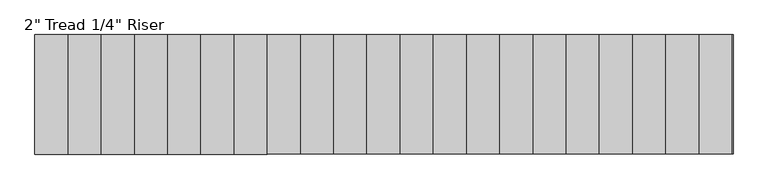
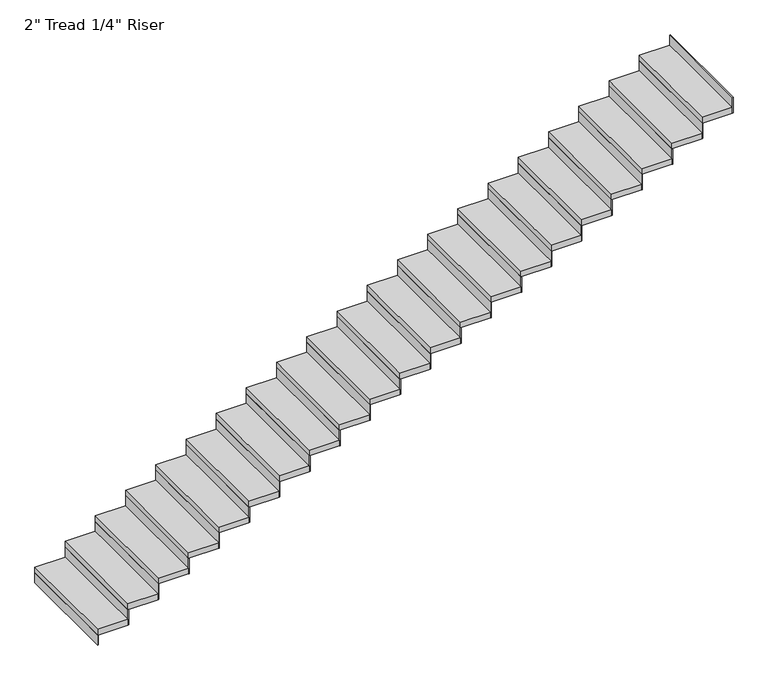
"""IFC4 building model written with IfcOpenShell, lengths in millimetres: stair flight geometry."""

from ifc_helpers import new_model, si_unit, frame, origin, origin_with_axes, place, context, project, spatial, polyline, outline, extrude, source, transform, mapped, element, save


def stair_flight_d66cefcb(model_context):
    return source(origin(), model_context, "Body", "SweptSolid", [
        extrude(outline(polyline([(35788.4072927, 15846.0395941), (35782.0572927, 15846.0395941), (35782.0572927, 16760.4395941), (35788.4072927, 16760.4395941), (35788.4072927, 15846.0395941)])), origin_with_axes(), (0.0, 0.0, 1.0), 87.7454545),
        extrude(outline(polyline([(36036.0572927, 16760.4395941), (36036.0572927, 15846.0395941), (35782.0572927, 15846.0395941), (35782.0572927, 16760.4395941), (36036.0572927, 16760.4395941)])), frame((0.0, 0.0, 87.7454545), z_axis=(0.0, 0.0, 1.0), x_axis=(1.0, 0.0, 0.0)), (0.0, 0.0, 1.0), 50.8),
        extrude(outline(polyline([(36042.4072927, 15846.0395941), (36036.0572927, 15846.0395941), (36036.0572927, 16760.4395941), (36042.4072927, 16760.4395941), (36042.4072927, 15846.0395941)])), frame((0.0, 0.0, 87.7454545), z_axis=(0.0, 0.0, 1.0), x_axis=(1.0, 0.0, 0.0)), (0.0, 0.0, 1.0), 138.5454545),
        extrude(outline(polyline([(36290.0572927, 16760.4395941), (36290.0572927, 15846.0395941), (36036.0572927, 15846.0395941), (36036.0572927, 16760.4395941), (36290.0572927, 16760.4395941)])), frame((0.0, 0.0, 226.2909091), z_axis=(0.0, 0.0, 1.0), x_axis=(1.0, 0.0, 0.0)), (0.0, 0.0, 1.0), 50.8),
        extrude(outline(polyline([(36296.4072927, 15846.0395941), (36290.0572927, 15846.0395941), (36290.0572927, 16760.4395941), (36296.4072927, 16760.4395941), (36296.4072927, 15846.0395941)])), frame((0.0, 0.0, 226.2909091), z_axis=(0.0, 0.0, 1.0), x_axis=(1.0, 0.0, 0.0)), (0.0, 0.0, 1.0), 138.5454545),
        extrude(outline(polyline([(36544.0572927, 16760.4395941), (36544.0572927, 15846.0395941), (36290.0572927, 15846.0395941), (36290.0572927, 16760.4395941), (36544.0572927, 16760.4395941)])), frame((0.0, 0.0, 364.8363636), z_axis=(0.0, 0.0, 1.0), x_axis=(1.0, 0.0, 0.0)), (0.0, 0.0, 1.0), 50.8),
        extrude(outline(polyline([(36550.4072927, 15846.0395941), (36544.0572927, 15846.0395941), (36544.0572927, 16760.4395941), (36550.4072927, 16760.4395941), (36550.4072927, 15846.0395941)])), frame((0.0, 0.0, 364.8363636), z_axis=(0.0, 0.0, 1.0), x_axis=(1.0, 0.0, 0.0)), (0.0, 0.0, 1.0), 138.5454545),
        extrude(outline(polyline([(36798.0572927, 16760.4395941), (36798.0572927, 15846.0395941), (36544.0572927, 15846.0395941), (36544.0572927, 16760.4395941), (36798.0572927, 16760.4395941)])), frame((0.0, 0.0, 503.3818182), z_axis=(0.0, 0.0, 1.0), x_axis=(1.0, 0.0, 0.0)), (0.0, 0.0, 1.0), 50.8),
        extrude(outline(polyline([(36804.4072927, 15846.0395941), (36798.0572927, 15846.0395941), (36798.0572927, 16760.4395941), (36804.4072927, 16760.4395941), (36804.4072927, 15846.0395941)])), frame((0.0, 0.0, 503.3818182), z_axis=(0.0, 0.0, 1.0), x_axis=(1.0, 0.0, 0.0)), (0.0, 0.0, 1.0), 138.5454545),
        extrude(outline(polyline([(37052.0572927, 16760.4395941), (37052.0572927, 15846.0395941), (36798.0572927, 15846.0395941), (36798.0572927, 16760.4395941), (37052.0572927, 16760.4395941)])), frame((0.0, 0.0, 641.9272727), z_axis=(0.0, 0.0, 1.0), x_axis=(1.0, 0.0, 0.0)), (0.0, 0.0, 1.0), 50.8),
        extrude(outline(polyline([(37058.4072927, 15846.0395941), (37052.0572927, 15846.0395941), (37052.0572927, 16760.4395941), (37058.4072927, 16760.4395941), (37058.4072927, 15846.0395941)])), frame((0.0, 0.0, 641.9272727), z_axis=(0.0, 0.0, 1.0), x_axis=(1.0, 0.0, 0.0)), (0.0, 0.0, 1.0), 138.5454545),
        extrude(outline(polyline([(37306.0572927, 16760.4395941), (37306.0572927, 15846.0395941), (37052.0572927, 15846.0395941), (37052.0572927, 16760.4395941), (37306.0572927, 16760.4395941)])), frame((0.0, 0.0, 780.4727273), z_axis=(0.0, 0.0, 1.0), x_axis=(1.0, 0.0, 0.0)), (0.0, 0.0, 1.0), 50.8),
        extrude(outline(polyline([(37312.4072927, 15846.0395941), (37306.0572927, 15846.0395941), (37306.0572927, 16760.4395941), (37312.4072927, 16760.4395941), (37312.4072927, 15846.0395941)])), frame((0.0, 0.0, 780.4727273), z_axis=(0.0, 0.0, 1.0), x_axis=(1.0, 0.0, 0.0)), (0.0, 0.0, 1.0), 138.5454545),
        extrude(outline(polyline([(37560.0572927, 16760.4395941), (37560.0572927, 15846.0395941), (37306.0572927, 15846.0395941), (37306.0572927, 16760.4395941), (37560.0572927, 16760.4395941)])), frame((0.0, 0.0, 919.0181818), z_axis=(0.0, 0.0, 1.0), x_axis=(1.0, 0.0, 0.0)), (0.0, 0.0, 1.0), 50.8),
        extrude(outline(polyline([(37566.4072927, 15846.0395941), (37560.0572927, 15846.0395941), (37560.0572927, 16760.4395941), (37566.4072927, 16760.4395941), (37566.4072927, 15846.0395941)])), frame((0.0, 0.0, 919.0181818), z_axis=(0.0, 0.0, 1.0), x_axis=(1.0, 0.0, 0.0)), (0.0, 0.0, 1.0), 138.5454545),
        extrude(outline(polyline([(37814.0572927, 16760.4395941), (37814.0572927, 15846.0395941), (37560.0572927, 15846.0395941), (37560.0572927, 16760.4395941), (37814.0572927, 16760.4395941)])), frame((0.0, 0.0, 1057.5636364), z_axis=(0.0, 0.0, 1.0), x_axis=(1.0, 0.0, 0.0)), (0.0, 0.0, 1.0), 50.8),
        extrude(outline(polyline([(37820.4072927, 15846.0395941), (37814.0572927, 15846.0395941), (37814.0572927, 16760.4395941), (37820.4072927, 16760.4395941), (37820.4072927, 15846.0395941)])), frame((0.0, 0.0, 1057.5636364), z_axis=(0.0, 0.0, 1.0), x_axis=(1.0, 0.0, 0.0)), (0.0, 0.0, 1.0), 138.5454545),
        extrude(outline(polyline([(38068.0572927, 16760.4395941), (38068.0572927, 15846.0395941), (37814.0572927, 15846.0395941), (37814.0572927, 16760.4395941), (38068.0572927, 16760.4395941)])), frame((0.0, 0.0, 1196.1090909), z_axis=(0.0, 0.0, 1.0), x_axis=(1.0, 0.0, 0.0)), (0.0, 0.0, 1.0), 50.8),
        extrude(outline(polyline([(38074.4072927, 15846.0395941), (38068.0572927, 15846.0395941), (38068.0572927, 16760.4395941), (38074.4072927, 16760.4395941), (38074.4072927, 15846.0395941)])), frame((0.0, 0.0, 1196.1090909), z_axis=(0.0, 0.0, 1.0), x_axis=(1.0, 0.0, 0.0)), (0.0, 0.0, 1.0), 138.5454545),
        extrude(outline(polyline([(38322.0572927, 16760.4395941), (38322.0572927, 15846.0395941), (38068.0572927, 15846.0395941), (38068.0572927, 16760.4395941), (38322.0572927, 16760.4395941)])), frame((0.0, 0.0, 1334.6545455), z_axis=(0.0, 0.0, 1.0), x_axis=(1.0, 0.0, 0.0)), (0.0, 0.0, 1.0), 50.8),
        extrude(outline(polyline([(38328.4072927, 15846.0395941), (38322.0572927, 15846.0395941), (38322.0572927, 16760.4395941), (38328.4072927, 16760.4395941), (38328.4072927, 15846.0395941)])), frame((0.0, 0.0, 1334.6545455), z_axis=(0.0, 0.0, 1.0), x_axis=(1.0, 0.0, 0.0)), (0.0, 0.0, 1.0), 138.5454545),
        extrude(outline(polyline([(38576.0572927, 16760.4395941), (38576.0572927, 15846.0395941), (38322.0572927, 15846.0395941), (38322.0572927, 16760.4395941), (38576.0572927, 16760.4395941)])), frame((0.0, 0.0, 1473.2), z_axis=(0.0, 0.0, 1.0), x_axis=(1.0, 0.0, 0.0)), (0.0, 0.0, 1.0), 50.8),
        extrude(outline(polyline([(38582.4072927, 15846.0395941), (38576.0572927, 15846.0395941), (38576.0572927, 16760.4395941), (38582.4072927, 16760.4395941), (38582.4072927, 15846.0395941)])), frame((0.0, 0.0, 1473.2), z_axis=(0.0, 0.0, 1.0), x_axis=(1.0, 0.0, 0.0)), (0.0, 0.0, 1.0), 138.5454545),
        extrude(outline(polyline([(38830.0572927, 16760.4395941), (38830.0572927, 15846.0395941), (38576.0572927, 15846.0395941), (38576.0572927, 16760.4395941), (38830.0572927, 16760.4395941)])), frame((0.0, 0.0, 1611.7454545), z_axis=(0.0, 0.0, 1.0), x_axis=(1.0, 0.0, 0.0)), (0.0, 0.0, 1.0), 50.8),
        extrude(outline(polyline([(38836.4072927, 15846.0395941), (38830.0572927, 15846.0395941), (38830.0572927, 16760.4395941), (38836.4072927, 16760.4395941), (38836.4072927, 15846.0395941)])), frame((0.0, 0.0, 1611.7454545), z_axis=(0.0, 0.0, 1.0), x_axis=(1.0, 0.0, 0.0)), (0.0, 0.0, 1.0), 138.5454545),
        extrude(outline(polyline([(39084.0572927, 16760.4395941), (39084.0572927, 15846.0395941), (38830.0572927, 15846.0395941), (38830.0572927, 16760.4395941), (39084.0572927, 16760.4395941)])), frame((0.0, 0.0, 1750.2909091), z_axis=(0.0, 0.0, 1.0), x_axis=(1.0, 0.0, 0.0)), (0.0, 0.0, 1.0), 50.8),
        extrude(outline(polyline([(39090.4072927, 15846.0395941), (39084.0572927, 15846.0395941), (39084.0572927, 16760.4395941), (39090.4072927, 16760.4395941), (39090.4072927, 15846.0395941)])), frame((0.0, 0.0, 1750.2909091), z_axis=(0.0, 0.0, 1.0), x_axis=(1.0, 0.0, 0.0)), (0.0, 0.0, 1.0), 138.5454545),
        extrude(outline(polyline([(39338.0572927, 16760.4395941), (39338.0572927, 15846.0395941), (39084.0572927, 15846.0395941), (39084.0572927, 16760.4395941), (39338.0572927, 16760.4395941)])), frame((0.0, 0.0, 1888.8363636), z_axis=(0.0, 0.0, 1.0), x_axis=(1.0, 0.0, 0.0)), (0.0, 0.0, 1.0), 50.8),
        extrude(outline(polyline([(39344.4072927, 15846.0395941), (39338.0572927, 15846.0395941), (39338.0572927, 16760.4395941), (39344.4072927, 16760.4395941), (39344.4072927, 15846.0395941)])), frame((0.0, 0.0, 1888.8363636), z_axis=(0.0, 0.0, 1.0), x_axis=(1.0, 0.0, 0.0)), (0.0, 0.0, 1.0), 138.5454545),
        extrude(outline(polyline([(39592.0572927, 16760.4395941), (39592.0572927, 15846.0395941), (39338.0572927, 15846.0395941), (39338.0572927, 16760.4395941), (39592.0572927, 16760.4395941)])), frame((0.0, 0.0, 2027.3818182), z_axis=(0.0, 0.0, 1.0), x_axis=(1.0, 0.0, 0.0)), (0.0, 0.0, 1.0), 50.8),
        extrude(outline(polyline([(39598.4072927, 15846.0395941), (39592.0572927, 15846.0395941), (39592.0572927, 16760.4395941), (39598.4072927, 16760.4395941), (39598.4072927, 15846.0395941)])), frame((0.0, 0.0, 2027.3818182), z_axis=(0.0, 0.0, 1.0), x_axis=(1.0, 0.0, 0.0)), (0.0, 0.0, 1.0), 138.5454545),
        extrude(outline(polyline([(39846.0572927, 16760.4395941), (39846.0572927, 15846.0395941), (39592.0572927, 15846.0395941), (39592.0572927, 16760.4395941), (39846.0572927, 16760.4395941)])), frame((0.0, 0.0, 2165.9272727), z_axis=(0.0, 0.0, 1.0), x_axis=(1.0, 0.0, 0.0)), (0.0, 0.0, 1.0), 50.8),
        extrude(outline(polyline([(39852.4072927, 15846.0395941), (39846.0572927, 15846.0395941), (39846.0572927, 16760.4395941), (39852.4072927, 16760.4395941), (39852.4072927, 15846.0395941)])), frame((0.0, 0.0, 2165.9272727), z_axis=(0.0, 0.0, 1.0), x_axis=(1.0, 0.0, 0.0)), (0.0, 0.0, 1.0), 138.5454545),
        extrude(outline(polyline([(40100.0572927, 16760.4395941), (40100.0572927, 15846.0395941), (39846.0572927, 15846.0395941), (39846.0572927, 16760.4395941), (40100.0572927, 16760.4395941)])), frame((0.0, 0.0, 2304.4727273), z_axis=(0.0, 0.0, 1.0), x_axis=(1.0, 0.0, 0.0)), (0.0, 0.0, 1.0), 50.8),
        extrude(outline(polyline([(40106.4072927, 15846.0395941), (40100.0572927, 15846.0395941), (40100.0572927, 16760.4395941), (40106.4072927, 16760.4395941), (40106.4072927, 15846.0395941)])), frame((0.0, 0.0, 2304.4727273), z_axis=(0.0, 0.0, 1.0), x_axis=(1.0, 0.0, 0.0)), (0.0, 0.0, 1.0), 138.5454545),
        extrude(outline(polyline([(40354.0572927, 16760.4395941), (40354.0572927, 15846.0395941), (40100.0572927, 15846.0395941), (40100.0572927, 16760.4395941), (40354.0572927, 16760.4395941)])), frame((0.0, 0.0, 2443.0181818), z_axis=(0.0, 0.0, 1.0), x_axis=(1.0, 0.0, 0.0)), (0.0, 0.0, 1.0), 50.8),
        extrude(outline(polyline([(40360.4072927, 15846.0395941), (40354.0572927, 15846.0395941), (40354.0572927, 16760.4395941), (40360.4072927, 16760.4395941), (40360.4072927, 15846.0395941)])), frame((0.0, 0.0, 2443.0181818), z_axis=(0.0, 0.0, 1.0), x_axis=(1.0, 0.0, 0.0)), (0.0, 0.0, 1.0), 138.5454545),
        extrude(outline(polyline([(40608.0572927, 16760.4395941), (40608.0572927, 15846.0395941), (40354.0572927, 15846.0395941), (40354.0572927, 16760.4395941), (40608.0572927, 16760.4395941)])), frame((0.0, 0.0, 2581.5636364), z_axis=(0.0, 0.0, 1.0), x_axis=(1.0, 0.0, 0.0)), (0.0, 0.0, 1.0), 50.8),
        extrude(outline(polyline([(40614.4072927, 15846.0395941), (40608.0572927, 15846.0395941), (40608.0572927, 16760.4395941), (40614.4072927, 16760.4395941), (40614.4072927, 15846.0395941)])), frame((0.0, 0.0, 2581.5636364), z_axis=(0.0, 0.0, 1.0), x_axis=(1.0, 0.0, 0.0)), (0.0, 0.0, 1.0), 138.5454545),
        extrude(outline(polyline([(40862.0572927, 16760.4395941), (40862.0572927, 15846.0395941), (40608.0572927, 15846.0395941), (40608.0572927, 16760.4395941), (40862.0572927, 16760.4395941)])), frame((0.0, 0.0, 2720.1090909), z_axis=(0.0, 0.0, 1.0), x_axis=(1.0, 0.0, 0.0)), (0.0, 0.0, 1.0), 50.8),
        extrude(outline(polyline([(40868.4072927, 15846.0395941), (40862.0572927, 15846.0395941), (40862.0572927, 16760.4395941), (40868.4072927, 16760.4395941), (40868.4072927, 15846.0395941)])), frame((0.0, 0.0, 2720.1090909), z_axis=(0.0, 0.0, 1.0), x_axis=(1.0, 0.0, 0.0)), (0.0, 0.0, 1.0), 138.5454545),
        extrude(outline(polyline([(41122.4072927, 15846.0395941), (41116.0572927, 15846.0395941), (41116.0572927, 16760.4395941), (41122.4072927, 16760.4395941), (41122.4072927, 15846.0395941)])), frame((0.0, 0.0, 2858.6545455), z_axis=(0.0, 0.0, 1.0), x_axis=(1.0, 0.0, 0.0)), (0.0, 0.0, 1.0), 138.5454545),
        extrude(outline(polyline([(41116.0572927, 16760.4395941), (41116.0572927, 15846.0395941), (40862.0572927, 15846.0395941), (40862.0572927, 16760.4395941), (41116.0572927, 16760.4395941)])), frame((0.0, 0.0, 2858.6545455), z_axis=(0.0, 0.0, 1.0), x_axis=(1.0, 0.0, 0.0)), (0.0, 0.0, 1.0), 50.8),
    ])


if __name__ == "__main__":
    model = new_model("IFC4")
    model_context = context("Model", 3, world=origin())
    ifc_project = project(units=[si_unit("LENGTHUNIT", "METRE", prefix="MILLI")], contexts=[model_context])
    site = spatial("IfcSite", under=ifc_project)
    building = spatial("IfcBuilding", under=site)
    placement = place(None, origin())
    stair_flight_shape = stair_flight_d66cefcb(model_context)
    element("IfcStairFlight", 1, ObjectType="2\" Tread 1/4\" Riser", at=placement, inside=building, context=model_context, shape_type="MappedRepresentation", body=[
        mapped(stair_flight_shape, transform((0.0, 0.0, 0.0), x_axis=(1.0, 0.0, 0.0), y_axis=(0.0, 1.0, 0.0), z_axis=(0.0, 0.0, 1.0))),
    ])
    save(model, "model.ifc")
